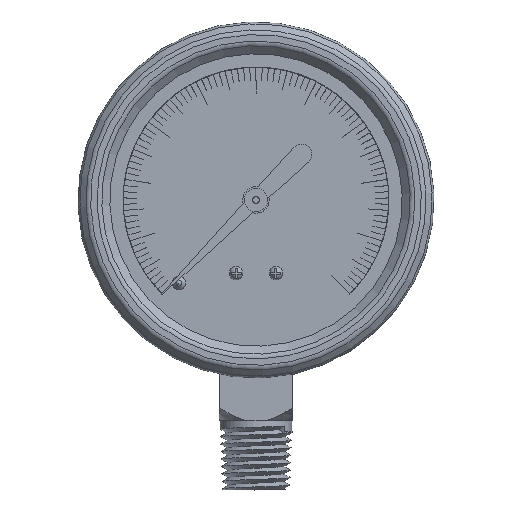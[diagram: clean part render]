
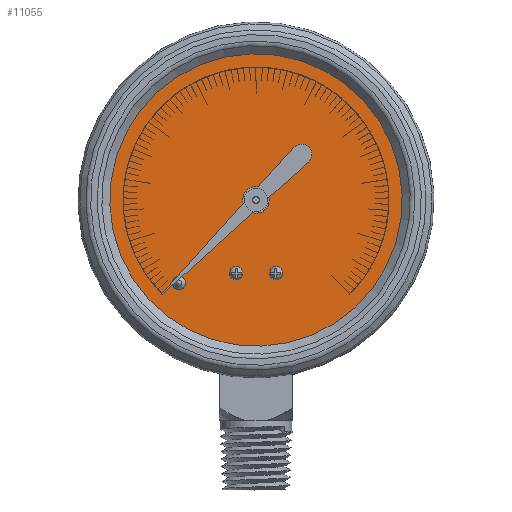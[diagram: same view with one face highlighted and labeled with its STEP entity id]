
A CAD part, top view. The second image highlights one B-rep face of the part: STEP entity #11055.
In plain terms, the highlighted planar face has unit normal (0, 0, -1).
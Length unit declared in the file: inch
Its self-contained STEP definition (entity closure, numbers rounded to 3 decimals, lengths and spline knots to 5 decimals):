
#201=FACE_BOUND('',#4508,.T.);
#202=FACE_BOUND('',#4509,.T.);
#203=FACE_BOUND('',#4510,.T.);
#204=FACE_BOUND('',#4511,.T.);
#637=PLANE('',#12034);
#3842=FACE_OUTER_BOUND('',#4507,.T.);
#4507=EDGE_LOOP('',(#10218));
#4508=EDGE_LOOP('',(#10219));
#4509=EDGE_LOOP('',(#10220));
#4510=EDGE_LOOP('',(#10221));
#4511=EDGE_LOOP('',(#10222));
#4675=CIRCLE('',#11455,0.02);
#4786=CIRCLE('',#12027,0.05);
#4787=CIRCLE('',#12029,0.05);
#4788=CIRCLE('',#12031,0.08);
#4789=CIRCLE('',#12033,1.15);
#4941=VERTEX_POINT('',#15851);
#5766=VERTEX_POINT('',#18373);
#5767=VERTEX_POINT('',#18377);
#5768=VERTEX_POINT('',#18381);
#5769=VERTEX_POINT('',#18385);
#6028=EDGE_CURVE('',#4941,#4941,#4675,.T.);
#7264=EDGE_CURVE('',#5766,#5766,#4786,.T.);
#7266=EDGE_CURVE('',#5767,#5767,#4787,.T.);
#7268=EDGE_CURVE('',#5768,#5768,#4788,.T.);
#7270=EDGE_CURVE('',#5769,#5769,#4789,.T.);
#10218=ORIENTED_EDGE('',*,*,#7270,.T.);
#10219=ORIENTED_EDGE('',*,*,#6028,.T.);
#10220=ORIENTED_EDGE('',*,*,#7264,.T.);
#10221=ORIENTED_EDGE('',*,*,#7266,.T.);
#10222=ORIENTED_EDGE('',*,*,#7268,.T.);
#11055=ADVANCED_FACE('',(#3842,#201,#202,#203,#204),#637,.F.);
#11455=AXIS2_PLACEMENT_3D('',#15853,#12541,#12542);
#12027=AXIS2_PLACEMENT_3D('',#18375,#14810,#14811);
#12029=AXIS2_PLACEMENT_3D('',#18379,#14815,#14816);
#12031=AXIS2_PLACEMENT_3D('',#18383,#14820,#14821);
#12033=AXIS2_PLACEMENT_3D('',#18387,#14825,#14826);
#12034=AXIS2_PLACEMENT_3D('',#18388,#14827,#14828);
#12541=DIRECTION('center_axis',(0.,0.,1.));
#12542=DIRECTION('ref_axis',(-1.,0.,0.));
#14810=DIRECTION('center_axis',(0.,0.,1.));
#14811=DIRECTION('ref_axis',(-1.,0.,0.));
#14815=DIRECTION('center_axis',(0.,0.,1.));
#14816=DIRECTION('ref_axis',(-1.,0.,0.));
#14820=DIRECTION('center_axis',(0.,0.,1.));
#14821=DIRECTION('ref_axis',(-1.,0.,0.));
#14825=DIRECTION('center_axis',(0.,0.,-1.));
#14826=DIRECTION('ref_axis',(-1.,0.,0.));
#14827=DIRECTION('center_axis',(0.,0.,1.));
#14828=DIRECTION('ref_axis',(1.,0.,0.));
#15851=CARTESIAN_POINT('',(-0.56006,-0.62452,0.));
#15853=CARTESIAN_POINT('Origin',(-0.58006,-0.62452,
0.));
#18373=CARTESIAN_POINT('',(0.2,-0.55,0.));
#18375=CARTESIAN_POINT('Origin',(0.15,-0.55,0.));
#18377=CARTESIAN_POINT('',(-0.1,-0.55,0.));
#18379=CARTESIAN_POINT('Origin',(-0.15,-0.55,0.));
#18381=CARTESIAN_POINT('',(0.08,0.,0.));
#18383=CARTESIAN_POINT('Origin',(0.,0.,0.));
#18385=CARTESIAN_POINT('',(1.15,0.,0.));
#18387=CARTESIAN_POINT('Origin',(0.,0.,0.));
#18388=CARTESIAN_POINT('Origin',(0.,0.,
0.));
